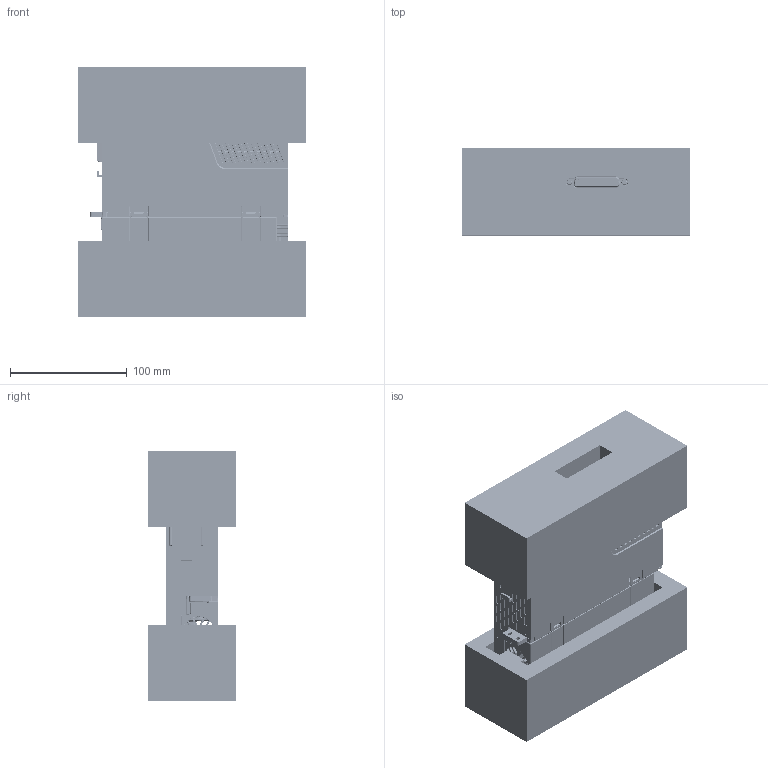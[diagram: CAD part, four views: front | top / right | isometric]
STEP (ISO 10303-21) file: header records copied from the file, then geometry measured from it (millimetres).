
FILE_DESCRIPTION((''),'2;1');
FILE_NAME('01-SD300-400W00_ASM_ASM','2023-11-20T08:54:49',('Administrator'),(''),'CREO PARAMETRIC BY PTC INC, 2021023','CREO PARAMETRIC BY PTC INC, 2021023','');
FILE_SCHEMA(('CONFIG_CONTROL_DESIGN','SHAPE_APPEARANCE_LAYERS_GROUPS'));
Products named in the file (26): 3-0001_1_2; PCB0001_ASM_1_ASM_2_ASM; EP5-TL04_00_ASM_1_ASM_2_ASM; SD300-AP-CS-LM-00_2; SD300-AP-CS-LM-A01-0511_1_2_2; SD300-AP-CS-LM-00_ASM_1_ASM; 9EDGRC-5_0-00_1_2; IEEE-1394_1_2; TYPE-C_1_2; SD300_220904__1_2; DB44-0001_1_1_1; DB44-0001_1_2_1; DB44-0001_1_3_1; DB44-0001_1_ASM_1_ASM; 0001_1; 00-NEW-ELEC00_ASM_1_ASM; 00-SHUINIDIANZU_1_2; SD500-TL04_00_ASM_1_ASM; 63200453_2; 63200458_4; 00-SRQ-YAZHU-WGSJ_2; 21100054-V21_2; 00-TOUMINGAI_25_2; 30050132-V22_2; 01-SD300-400W00_ASM_4_ASM; 01-SD300-400W00_ASM_ASM
Assembly tree (27 placements, depth 6):
  01-SD300-400W00_ASM_ASM
    01-SD300-400W00_ASM_4_ASM
      SD500-TL04_00_ASM_1_ASM
        EP5-TL04_00_ASM_1_ASM_2_ASM
          PCB0001_ASM_1_ASM_2_ASM
            3-0001_1_2
        00-NEW-ELEC00_ASM_1_ASM
          SD300-AP-CS-LM-00_ASM_1_ASM
            SD300-AP-CS-LM-00_2
            SD300-AP-CS-LM-A01-0511_1_2_2
          9EDGRC-5_0-00_1_2
          IEEE-1394_1_2
          TYPE-C_1_2
          SD300_220904__1_2
          DB44-0001_1_ASM_1_ASM
            DB44-0001_1_1_1
            DB44-0001_1_2_1
            DB44-0001_1_3_1
          0001_1  x2
        00-SHUINIDIANZU_1_2
      63200453_2
      63200458_4
      00-SRQ-YAZHU-WGSJ_2
      21100054-V21_2
      00-TOUMINGAI_25_2
      30050132-V22_2  x2
Bounding box: 195 x 75 x 213.9 mm (x, y, z)
Volume: 1602252.7 mm3; surface area: 479271.4 mm2
Topology: 20 solids, 29 shells, 8894 faces, 22526 edges, 14025 vertices
Faces by surface type: plane 4673, cylinder 2442, bspline 1097, torus 374, cone 171, sphere 134, extrusion 3
Entity records: 385936 total; most frequent: CARTESIAN_POINT 126793, ORIENTED_EDGE 44181, DIRECTION 39666, EDGE_CURVE 22116, VECTOR 14204, LINE 14201, VERTEX_POINT 13855, AXIS2_PLACEMENT_3D 12731
